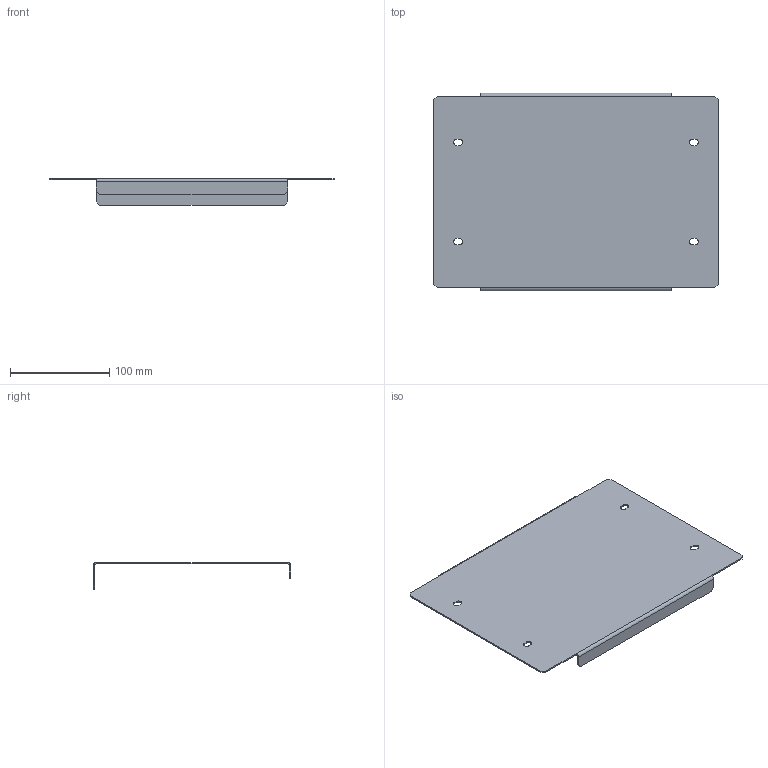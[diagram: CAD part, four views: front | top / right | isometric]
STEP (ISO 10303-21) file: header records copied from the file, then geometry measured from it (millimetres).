
FILE_DESCRIPTION (( 'STEP AP203' ), '1' );
FILE_NAME ('ZA 40 H Ïàíåëü öîêîëÿ.STEP', '2012-11-20T05:10:21', ( 'system' ), ( '' ), 'SwSTEP 2.0', 'SolidWorks 2012', '' );
FILE_SCHEMA (( 'CONFIG_CONTROL_DESIGN' ));
Length unit declared in the file: millimetre
Products named in the file (1): ZA 40 H Ïàíåëü öîêîëÿ
Bounding box: 286.5 x 199 x 27 mm (x, y, z)
Volume: 89116 mm3; surface area: 128895.5 mm2
Topology: 1 solids, 1 shells, 54 faces, 140 edges, 88 vertices
Faces by surface type: plane 38, cylinder 16
Entity records: 1721 total; most frequent: CARTESIAN_POINT 283, DIRECTION 282, ORIENTED_EDGE 280, EDGE_CURVE 140, VECTOR 108, LINE 108, VERTEX_POINT 88, AXIS2_PLACEMENT_3D 87
